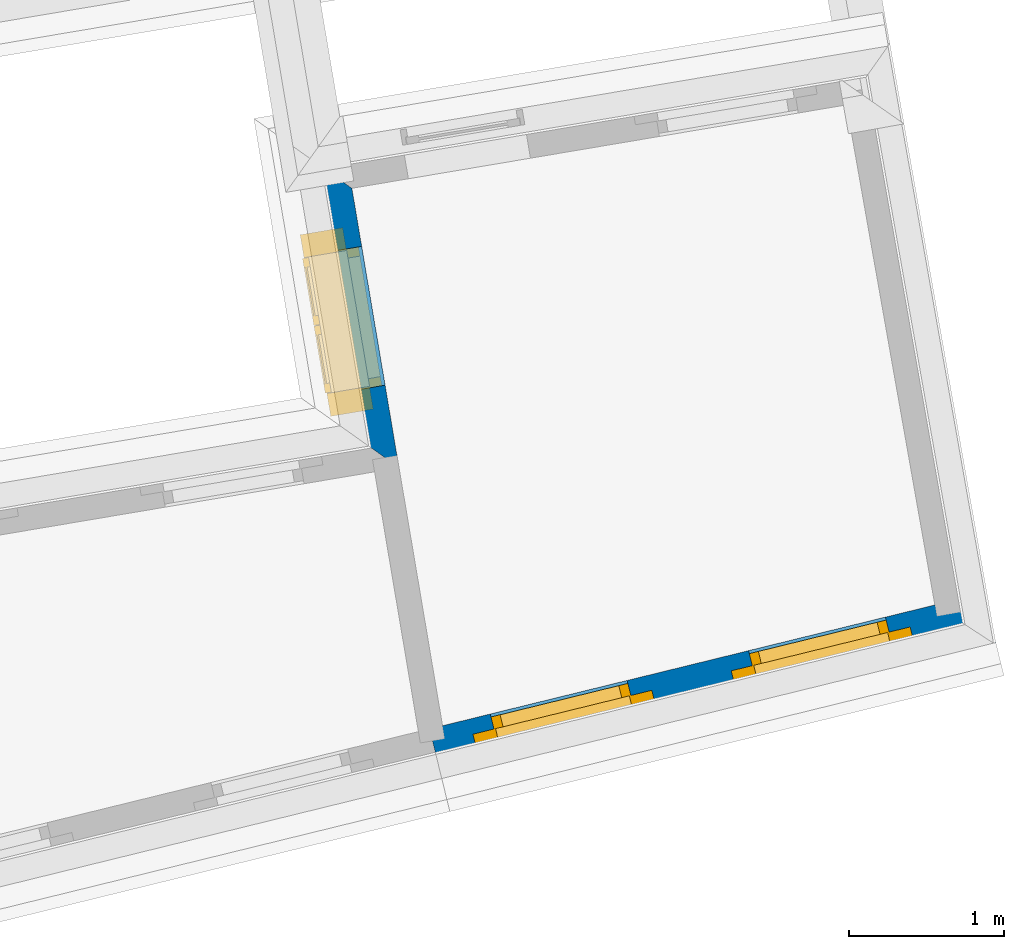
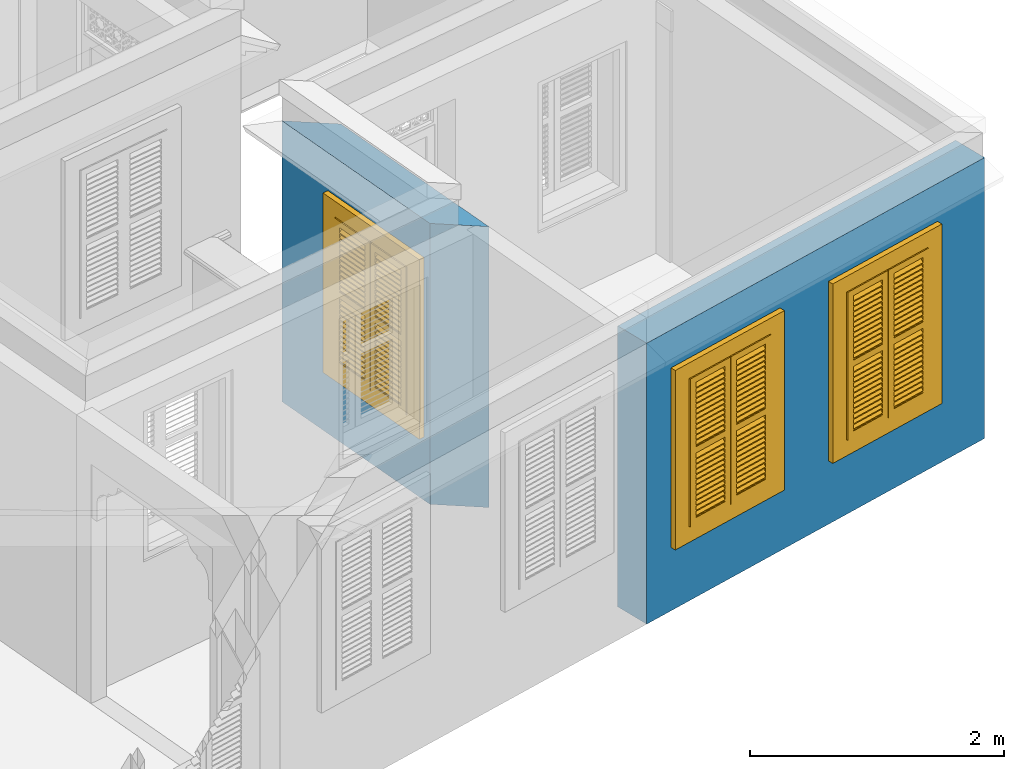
# One storey, part 6 of 12: 3 windows, 2 walls, 3 openings.
"""IFC4 building model written with IfcOpenShell, lengths in metres."""

import ifcopenshell
import ifcopenshell.guid

model = None  # the IFC model being written
_history = None  # IfcOwnerHistory: only IFC2X3 demands one
_inside = {}  # id of a spatial element -> (the spatial element, [elements in it])
_under = {}  # id of a project, library or spatial element -> (it, [spatial elements below it])
_declared = {}  # id of a project -> (the project, [libraries it declares])
_typed = {}  # id of a type object -> (the type object, [elements of that type])
_made_of = {}  # id of a material, layer set ... -> (it, [elements and type objects made of it])


def new_model(schema):
    """Start an empty IFC model of exactly this schema.

    Asked for "IFC4X3", IfcOpenShell would pick the latest addendum, in which some entities
    have other attributes; the version numbers below select the first issue.
    IFC2X3 requires an IfcOwnerHistory on every rooted entity: one is made here for all.
    """
    global model, _history
    if schema == "IFC4X3":
        model = ifcopenshell.file(schema_version=(4, 3, 0, 0))
    else:
        model = ifcopenshell.file(schema=schema)
    _inside.clear()
    _under.clear()
    _declared.clear()
    _typed.clear()
    _made_of.clear()
    _history = None
    if model.schema == "IFC2X3":
        org = make("IfcOrganization", Name="unknown")
        user = make(
            "IfcPersonAndOrganization",
            ThePerson=make("IfcPerson", FamilyName="unknown"),
            TheOrganization=org,
        )
        app = make(
            "IfcApplication",
            ApplicationDeveloper=org,
            Version="unknown",
            ApplicationFullName="unknown",
            ApplicationIdentifier="unknown",
        )
        _history = make(
            "IfcOwnerHistory",
            OwningUser=user,
            OwningApplication=app,
            ChangeAction="ADDED",
            CreationDate=0,
        )
    return model


def make(cls, **values):
    """One entity of the class cls with the attributes given. An attribute that is None is left unset."""
    return model.create_entity(
        cls, **{name: value for name, value in values.items() if value is not None}
    )


def rooted(cls, **values):
    """An entity with a GlobalId (a new one), such as an element, a storey or a relation."""
    return make(cls, GlobalId=ifcopenshell.guid.new(), OwnerHistory=_history, **values)


def si_unit(unit_type, name, prefix=None):
    """IfcSIUnit, for example si_unit("LENGTHUNIT", "METRE", prefix="MILLI")."""
    return make("IfcSIUnit", UnitType=unit_type, Prefix=prefix, Name=name)


def assignment(units):
    """IfcUnitAssignment: the units of a project."""
    return None if units is None else make("IfcUnitAssignment", Units=units)


def point(xyz):
    """IfcCartesianPoint."""
    return None if xyz is None else make("IfcCartesianPoint", Coordinates=xyz)


def direction(xyz):
    """IfcDirection."""
    return None if xyz is None else make("IfcDirection", DirectionRatios=xyz)


def frame(location, z_axis=None, x_axis=None):
    """IfcAxis2Placement3D, a coordinate frame: its origin and axes. An axis left out is left unset."""
    return make(
        "IfcAxis2Placement3D",
        Location=point(location),
        Axis=direction(z_axis),
        RefDirection=direction(x_axis),
    )


def origin():
    """The frame at (0, 0, 0) with its axes left unset."""
    return frame((0.0, 0.0, 0.0))


def origin_with_axes():
    """The frame at (0, 0, 0) with the z axis (0, 0, 1) and the x axis (1, 0, 0) written out."""
    return frame((0.0, 0.0, 0.0), z_axis=(0.0, 0.0, 1.0), x_axis=(1.0, 0.0, 0.0))


def place(relative_to, where):
    """IfcLocalPlacement: puts the frame where relative to a parent placement (None: the world)."""
    return make(
        "IfcLocalPlacement", PlacementRelTo=relative_to, RelativePlacement=where
    )


def context(
    kind, dimensions, precision=None, world=None, true_north=None, identifier=None
):
    """IfcGeometricRepresentationContext, for example the 3D "Model" context."""
    return make(
        "IfcGeometricRepresentationContext",
        ContextIdentifier=identifier,
        ContextType=kind,
        CoordinateSpaceDimension=dimensions,
        Precision=precision,
        WorldCoordinateSystem=world,
        TrueNorth=true_north,
    )


def subcontext(parent, identifier, kind, view, scale=None):
    """IfcGeometricRepresentationSubContext, for example "Body" below "Model"."""
    return make(
        "IfcGeometricRepresentationSubContext",
        ContextIdentifier=identifier,
        ContextType=kind,
        ParentContext=parent,
        TargetScale=scale,
        TargetView=view,
    )


def project(units=None, contexts=None):
    """IfcProject with its units and contexts."""
    return rooted(
        "IfcProject",
        Name="project",
        RepresentationContexts=contexts,
        UnitsInContext=assignment(units),
    )


def spatial(cls, under=None, at=None, **own):
    """A site, building, storey or space (cls), placed at a placement, below another one or the project."""
    s = rooted(cls, ObjectPlacement=at, **own)
    if under is not None:
        _under.setdefault(under.id(), (under, []))[1].append(s)
    return s


def polyline(points):
    """IfcPolyline through the points."""
    return make("IfcPolyline", Points=[point(p) for p in points])


def outline(outer, holes=None, kind="AREA"):
    """IfcArbitraryClosedProfileDef: a profile drawn as a closed curve; with holes, ...WithVoids."""
    if holes is None:
        return make("IfcArbitraryClosedProfileDef", ProfileType=kind, OuterCurve=outer)
    return make(
        "IfcArbitraryProfileDefWithVoids",
        ProfileType=kind,
        OuterCurve=outer,
        InnerCurves=holes,
    )


def extrude(swept, where, along, depth):
    """IfcExtrudedAreaSolid: the profile swept, set in the frame where, extruded along a direction by depth."""
    return make(
        "IfcExtrudedAreaSolid",
        SweptArea=swept,
        Position=where,
        ExtrudedDirection=direction(along),
        Depth=depth,
    )


def faces_of(points, faces, orient=None, outer=None):
    """IfcFace entities. A face is a list of loops; a loop is a list of indices into points, from 0.

    orient and outer hold one flag for each loop. By default every Orientation is true, the
    first loop of a face is its IfcFaceOuterBound and the others are IfcFaceBound.
    """
    made = []
    for i, loops in enumerate(faces):
        bounds = []
        for j, loop in enumerate(loops):
            is_outer = j == 0 if outer is None else outer[i][j]
            bounds.append(
                make(
                    "IfcFaceOuterBound" if is_outer else "IfcFaceBound",
                    Bound=make("IfcPolyLoop", Polygon=[points[k] for k in loop]),
                    Orientation=True if orient is None else orient[i][j],
                )
            )
        made.append(make("IfcFace", Bounds=bounds))
    return made


def faceted_brep(points, faces, orient=None, outer=None, voids=None):
    """IfcFacetedBrep: a solid bounded by flat faces; with voids (closed shells), ...WithVoids."""
    shared = [point(p) for p in points]
    hull = make("IfcClosedShell", CfsFaces=faces_of(shared, faces, orient, outer))
    if voids is None:
        return make("IfcFacetedBrep", Outer=hull)
    return make(
        "IfcFacetedBrepWithVoids",
        Outer=hull,
        Voids=[
            make(cls, CfsFaces=faces_of(shared, fs, o, b)) for cls, fs, o, b in voids
        ],
    )


def shape(context_of_items, identifier, shape_type, items):
    """IfcShapeRepresentation: the items that make up one representation, for example the "Body"."""
    return make(
        "IfcShapeRepresentation",
        ContextOfItems=context_of_items,
        RepresentationIdentifier=identifier,
        RepresentationType=shape_type,
        Items=items,
    )


def source(mapping_origin, context_of_items, identifier, shape_type, items):
    """IfcRepresentationMap: a shape defined once, which mapped items show again and again."""
    return make(
        "IfcRepresentationMap",
        MappingOrigin=mapping_origin,
        MappedRepresentation=shape(context_of_items, identifier, shape_type, items),
    )


def transform(
    local_origin,
    x_axis=None,
    y_axis=None,
    z_axis=None,
    scale=None,
    scale2=None,
    scale3=None,
    uniform=True,
):
    """IfcCartesianTransformationOperator3D, or its non-uniform kind. x_axis, y_axis, z_axis: its Axis1, 2, 3."""
    if uniform:
        return make(
            "IfcCartesianTransformationOperator3D",
            Axis1=direction(x_axis),
            Axis2=direction(y_axis),
            LocalOrigin=point(local_origin),
            Scale=scale,
            Axis3=direction(z_axis),
        )
    return make(
        "IfcCartesianTransformationOperator3DnonUniform",
        Axis1=direction(x_axis),
        Axis2=direction(y_axis),
        LocalOrigin=point(local_origin),
        Scale=scale,
        Axis3=direction(z_axis),
        Scale2=scale2,
        Scale3=scale3,
    )


def mapped(mapping_source, mapping_target):
    """IfcMappedItem: shows the shape of a source again, moved by a transform."""
    return make(
        "IfcMappedItem", MappingSource=mapping_source, MappingTarget=mapping_target
    )


def material(Name=None, Category=None):
    """IfcMaterial."""
    return make("IfcMaterial", Name=Name, Category=Category)


def layer(
    of_material, thickness, ventilated=None, Name=None, Category=None, Priority=None
):
    """IfcMaterialLayer: one layer of a wall or slab, of a material (None: an air gap)."""
    return make(
        "IfcMaterialLayer",
        Material=of_material,
        LayerThickness=thickness,
        IsVentilated=ventilated,
        Name=Name,
        Category=Category,
        Priority=Priority,
    )


def layer_set(layers, Name=None):
    """IfcMaterialLayerSet."""
    return make("IfcMaterialLayerSet", MaterialLayers=layers, LayerSetName=Name)


def layer_usage(for_layer_set, set_direction, sense, offset, extent=None):
    """IfcMaterialLayerSetUsage: how a layer set lies in its element."""
    return make(
        "IfcMaterialLayerSetUsage",
        ForLayerSet=for_layer_set,
        LayerSetDirection=set_direction,
        DirectionSense=sense,
        OffsetFromReferenceLine=offset,
        ReferenceExtent=extent,
    )


def made_of(thing, what):
    """Note that an element or type object is made of a material, layer set ...; save() writes the relation."""
    if what is not None:
        _made_of.setdefault(what.id(), (what, []))[1].append(thing)
    return thing


def type_object(cls, material=None, **own):
    """A type object (cls), such as IfcWallType, which elements share."""
    return made_of(rooted(cls, **own), material)


def type_shapes(of_type, sources):
    """Give a type object the sources (RepresentationMaps) that its elements show as mapped items."""
    of_type.RepresentationMaps = sources


def element(
    cls,
    number,
    at=None,
    inside=None,
    cuts=None,
    type_object=None,
    material=None,
    context=None,
    identifier="Body",
    shape_type=None,
    held_by="IfcProductDefinitionShape",
    body=None,
    shapes=None,
    **own,
):
    """One element of the class cls, such as IfcWall. Its Tag is "e" and its number.

    at: its placement. inside: the storey or other place that contains it. cuts: it is an
    opening in that element (IfcRelVoidsElement). A single representation is given by context,
    identifier, shape_type and body (its items); several are given by shapes. held_by: the class
    of the entity that holds the representations. save() writes the other relations.
    """
    e = rooted(cls, Tag="e%d" % number, ObjectPlacement=at, **own)
    if body is not None:
        shapes = [shape(context, identifier, shape_type, body)]
    if shapes is not None:
        e.Representation = make(held_by, Representations=shapes)
    if inside is not None:
        _inside.setdefault(inside.id(), (inside, []))[1].append(e)
    if cuts is not None:
        rooted(
            "IfcRelVoidsElement", RelatingBuildingElement=cuts, RelatedOpeningElement=e
        )
    if type_object is not None:
        _typed.setdefault(type_object.id(), (type_object, []))[1].append(e)
    return made_of(e, material)


def fill(opening, filler):
    """IfcRelFillsElement: the door or window that sits in an opening."""
    return rooted(
        "IfcRelFillsElement",
        RelatingOpeningElement=opening,
        RelatedBuildingElement=filler,
    )


def aggregate(whole, parts):
    """IfcRelAggregates: a whole, such as a stair, and the parts it consists of."""
    return rooted("IfcRelAggregates", RelatingObject=whole, RelatedObjects=parts)


def save(model, path):
    """Write the relations noted so far, then the file.

    IfcRelAggregates (storeys below a building ...), IfcRelContainedInSpatialStructure (elements
    in a storey), IfcRelDefinesByType, IfcRelAssociatesMaterial and IfcRelDeclares: one each for
    every whole, place, type object, material and project.
    """
    for whole, parts in _under.values():
        aggregate(whole, parts)
    for where, things in _inside.values():
        rooted(
            "IfcRelContainedInSpatialStructure",
            RelatedElements=things,
            RelatingStructure=where,
        )
    for kind, things in _typed.values():
        rooted("IfcRelDefinesByType", RelatedObjects=things, RelatingType=kind)
    for what, things in _made_of.values():
        rooted("IfcRelAssociatesMaterial", RelatedObjects=things, RelatingMaterial=what)
    for by, libraries in _declared.values():
        rooted("IfcRelDeclares", RelatingContext=by, RelatedDefinitions=libraries)
    model.write(path)


model = new_model("IFC4")

# Units and contexts
model_context = context("Model", 3, world=origin_with_axes())
body_context = subcontext(model_context, "Body", "Model", "MODEL_VIEW")
ifc_project = project(units=[si_unit("PLANEANGLEUNIT", "RADIAN"), si_unit("MASSUNIT", "GRAM", prefix="KILO"), si_unit("FORCEUNIT", "NEWTON", prefix="KILO"), si_unit("LENGTHUNIT", "METRE"), si_unit("AREAUNIT", "SQUARE_METRE"), si_unit("VOLUMEUNIT", "CUBIC_METRE")], contexts=[model_context, model_context])

# Site, building, storey
site_placement = place(None, origin_with_axes())
site = spatial("IfcSite", under=ifc_project, at=site_placement, Name="Site plot-6", CompositionType="ELEMENT")
building_placement = place(None, origin_with_axes())
building = spatial("IfcBuilding", under=site, at=building_placement, Name="Building plot-6", CompositionType="ELEMENT")
storey_placement = place(None, frame((0.0, 0.0, 3.6), z_axis=(0.0, 0.0, 1.0), x_axis=(1.0, 0.0, 0.0)))
storey = spatial("IfcBuildingStorey", under=building, at=storey_placement, Name="plot-6 1", CompositionType="ELEMENT", Elevation=3.6)

# Wall, opening, window
ifc_material = material(Name="Masonry")
ifc_layer = layer(ifc_material, 0.33, ventilated=False)
ifc_layer_set = layer_set([ifc_layer], Name="exterior_0.08_0.25")
ifc_layer_usage = layer_usage(ifc_layer_set, "AXIS2", "POSITIVE", -0.25)
wall_type = type_object("IfcWallType", Name="exterior_0.08_0.25", PredefinedType="SOLIDWALL", material=ifc_layer_set)
wall_1_placement = place(storey_placement, frame((-2.74667527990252, 1.74394871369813, 0.0), z_axis=(0.0, 0.0, 1.0), x_axis=(0.16629262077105, -0.986076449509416, 0.0)))
wall_1 = element("IfcWall", 1, at=wall_1_placement, inside=storey, type_object=wall_type, material=ifc_layer_usage, Name="exterior", context=body_context, shape_type="SweptSolid", body=[
    extrude(outline(polyline([(0.0800000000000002, 0.0800000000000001), (-0.25, -0.25), (1.58045229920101, -0.25), (1.91045229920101, 0.0800000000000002), (0.0800000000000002, 0.0800000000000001)])), origin_with_axes(), (0.0, 0.0, 1.0), 2.7),
])
opening_1_placement = place(wall_1_placement, frame((0.460226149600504, 0.0, 0.75)))
opening_1 = element("IfcOpeningElement", 2, at=opening_1_placement, cuts=wall_1, Name="My Opening", ObjectType="Opening", context=body_context, shape_type="SweptSolid", body=[
    extrude(outline(polyline([(0.0, -0.270000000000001), (0.91, -0.270000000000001), (0.91, 1.1), (3.33066907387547e-16, 1.1), (0.0, -0.270000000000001)])), origin_with_axes(), (0.0, 0.0, 1.0), 1.445),
])
window_type = type_object("IfcWindowType", Name="shuttered_shorter", PartitioningType="DOUBLE_PANEL_HORIZONTAL", PredefinedType="NOTDEFINED")
shared_shape = source(origin(), body_context, "Body", "Brep", [
    faceted_brep([(0.393, 0.0, 0.622), (0.074, 0.0, 0.622), (0.074, 0.0, 0.632), (0.393, 0.0, 0.632), (0.074, -0.04, 0.592), (0.393, -0.04, 0.592), (0.393, -0.04, 0.582), (0.074, -0.04, 0.582), (0.517, 0.0, 0.682), (0.836, 0.0, 0.682), (0.836, 0.0, 0.672), (0.517, 0.0, 0.672), (0.517, -0.04, 0.642), (0.836, -0.04, 0.642), (0.836, -0.04, 0.632), (0.517, -0.04, 0.632), (0.517, 0.0, 0.632), (0.836, 0.0, 0.632), (0.836, 0.0, 0.622), (0.517, 0.0, 0.622), (0.517, -0.04, 0.592), (0.836, -0.04, 0.592), (0.836, -0.04, 0.582), (0.517, -0.04, 0.582), (0.517, 0.0, 0.232), (0.836, 0.0, 0.232), (0.836, 0.0, 0.222), (0.517, 0.0, 0.222), (0.517, -0.04, 0.192), (0.836, -0.04, 0.192), (0.836, -0.04, 0.182), (0.517, -0.04, 0.182), (0.517, 0.0, 0.532), (0.836, 0.0, 0.532), (0.836, 0.0, 0.522), (0.517, 0.0, 0.522), (0.517, -0.04, 0.492), (0.836, -0.04, 0.492), (0.836, -0.04, 0.482), (0.517, -0.04, 0.482), (0.517, 0.0, 0.482), (0.836, 0.0, 0.482), (0.836, 0.0, 0.472), (0.517, 0.0, 0.472), (0.517, -0.04, 0.442), (0.836, -0.04, 0.442), (0.836, -0.04, 0.432), (0.517, -0.04, 0.432), (0.517, 0.0, 0.582), (0.836, 0.0, 0.582), (0.836, 0.0, 0.572), (0.517, 0.0, 0.572), (0.517, -0.04, 0.542), (0.836, -0.04, 0.542), (0.836, -0.04, 0.532), (0.517, -0.04, 0.532), (0.517, 0.0, 0.182), (0.836, 0.0, 0.182), (0.836, 0.0, 0.172), (0.517, 0.0, 0.172), (0.517, -0.04, 0.142), (0.836, -0.04, 0.142), (0.836, -0.04, 0.132), (0.517, -0.04, 0.132), (0.517, 0.0, 0.382), (0.836, 0.0, 0.382), (0.836, 0.0, 0.372), (0.517, 0.0, 0.372), (0.517, -0.04, 0.342), (0.836, -0.04, 0.342), (0.836, -0.04, 0.332), (0.517, -0.04, 0.332), (0.517, 0.0, 0.432), (0.836, 0.0, 0.432), (0.836, 0.0, 0.422), (0.517, 0.0, 0.422), (0.517, -0.04, 0.392), (0.836, -0.04, 0.392), (0.836, -0.04, 0.382), (0.517, -0.04, 0.382), (0.517, 0.0, 0.132), (0.836, 0.0, 0.132), (0.836, 0.0, 0.122), (0.517, 0.0, 0.122), (0.517, -0.04, 0.092), (0.836, -0.04, 0.092), (0.836, -0.04, 0.082), (0.517, -0.04, 0.082), (0.517, 0.0, 0.282), (0.836, 0.0, 0.282), (0.836, 0.0, 0.272), (0.517, 0.0, 0.272), (0.517, -0.04, 0.242), (0.836, -0.04, 0.242), (0.836, -0.04, 0.232), (0.517, -0.04, 0.232), (0.517, 0.0, 0.332), (0.836, 0.0, 0.332), (0.836, 0.0, 0.322), (0.517, 0.0, 0.322), (0.517, -0.04, 0.292), (0.836, -0.04, 0.292), (0.836, -0.04, 0.282), (0.517, -0.04, 0.282), (0.517, 0.0, 1.362667), (0.836, 0.0, 1.362667), (0.836, 0.0, 1.352667), (0.517, 0.0, 1.352667), (0.517, -0.04, 1.322667), (0.836, -0.04, 1.322667), (0.836, -0.04, 1.312667), (0.517, -0.04, 1.312667), (0.517, 0.0, 1.312667), (0.836, 0.0, 1.312667), (0.836, 0.0, 1.302667), (0.517, 0.0, 1.302667), (0.517, -0.04, 1.272667), (0.836, -0.04, 1.272667), (0.836, -0.04, 1.262667), (0.517, -0.04, 1.262667), (0.517, 0.0, 0.912667), (0.836, 0.0, 0.912667), (0.836, 0.0, 0.902667), (0.517, 0.0, 0.902667), (0.517, -0.04, 0.872667), (0.836, -0.04, 0.872667), (0.836, -0.04, 0.862667), (0.517, -0.04, 0.862667), (0.517, 0.0, 1.212667), (0.836, 0.0, 1.212667), (0.836, 0.0, 1.202667), (0.517, 0.0, 1.202667), (0.517, -0.04, 1.172667), (0.836, -0.04, 1.172667), (0.836, -0.04, 1.162667), (0.517, -0.04, 1.162667), (0.517, 0.0, 1.162667), (0.836, 0.0, 1.162667), (0.836, 0.0, 1.152667), (0.517, 0.0, 1.152667), (0.517, -0.04, 1.122667), (0.836, -0.04, 1.122667), (0.836, -0.04, 1.112667), (0.517, -0.04, 1.112667), (0.517, 0.0, 1.262667), (0.836, 0.0, 1.262667), (0.836, 0.0, 1.252667), (0.517, 0.0, 1.252667), (0.517, -0.04, 1.222667), (0.836, -0.04, 1.222667), (0.836, -0.04, 1.212667), (0.517, -0.04, 1.212667), (0.517, 0.0, 0.862667), (0.836, 0.0, 0.862667), (0.836, 0.0, 0.852667), (0.517, 0.0, 0.852667), (0.517, -0.04, 0.822667), (0.836, -0.04, 0.822667), (0.836, -0.04, 0.812667), (0.517, -0.04, 0.812667), (0.517, 0.0, 1.062667), (0.836, 0.0, 1.062667), (0.836, 0.0, 1.052667), (0.517, 0.0, 1.052667), (0.517, -0.04, 1.022667), (0.836, -0.04, 1.022667), (0.836, -0.04, 1.012667), (0.517, -0.04, 1.012667), (0.517, 0.0, 1.112667), (0.836, 0.0, 1.112667), (0.836, 0.0, 1.102667), (0.517, 0.0, 1.102667), (0.517, -0.04, 1.072667), (0.836, -0.04, 1.072667), (0.836, -0.04, 1.062667), (0.517, -0.04, 1.062667), (0.517, 0.0, 0.812667), (0.836, 0.0, 0.812667), (0.836, 0.0, 0.802667), (0.517, 0.0, 0.802667), (0.517, -0.04, 0.772667), (0.836, -0.04, 0.772667), (0.836, -0.04, 0.762667), (0.517, -0.04, 0.762667), (0.517, 0.0, 0.962667), (0.836, 0.0, 0.962667), (0.836, 0.0, 0.952667), (0.517, 0.0, 0.952667), (0.517, -0.04, 0.922667), (0.836, -0.04, 0.922667), (0.836, -0.04, 0.912667), (0.517, -0.04, 0.912667), (0.517, 0.0, 1.012667), (0.836, 0.0, 1.012667), (0.836, 0.0, 1.002667), (0.517, 0.0, 1.002667), (0.517, -0.04, 0.972667), (0.836, -0.04, 0.972667), (0.836, -0.04, 0.962667), (0.517, -0.04, 0.962667), (0.074, 0.0, 0.682), (0.393, 0.0, 0.682), (0.393, 0.0, 0.672), (0.074, 0.0, 0.672), (0.074, -0.04, 0.642), (0.393, -0.04, 0.642), (0.393, -0.04, 0.632), (0.074, -0.04, 0.632), (0.074, 0.0, 0.232), (0.393, 0.0, 0.232), (0.393, 0.0, 0.222), (0.074, 0.0, 0.222), (0.074, -0.04, 0.192), (0.393, -0.04, 0.192), (0.393, -0.04, 0.182), (0.074, -0.04, 0.182), (0.074, 0.0, 0.532), (0.393, 0.0, 0.532), (0.393, 0.0, 0.522), (0.074, 0.0, 0.522), (0.074, -0.04, 0.492), (0.393, -0.04, 0.492), (0.393, -0.04, 0.482), (0.074, -0.04, 0.482), (0.074, 0.0, 0.482), (0.393, 0.0, 0.482), (0.393, 0.0, 0.472), (0.074, 0.0, 0.472), (0.074, -0.04, 0.442), (0.393, -0.04, 0.442), (0.393, -0.04, 0.432), (0.074, -0.04, 0.432), (0.074, 0.0, 0.582), (0.393, 0.0, 0.582), (0.393, 0.0, 0.572), (0.074, 0.0, 0.572), (0.074, -0.04, 0.542), (0.393, -0.04, 0.542), (0.393, -0.04, 0.532), (0.074, -0.04, 0.532), (0.074, 0.0, 0.182), (0.393, 0.0, 0.182), (0.393, 0.0, 0.172), (0.074, 0.0, 0.172), (0.074, -0.04, 0.142), (0.393, -0.04, 0.142), (0.393, -0.04, 0.132), (0.074, -0.04, 0.132), (0.074, 0.0, 0.382), (0.393, 0.0, 0.382), (0.393, 0.0, 0.372), (0.074, 0.0, 0.372), (0.074, -0.04, 0.342), (0.393, -0.04, 0.342), (0.393, -0.04, 0.332), (0.074, -0.04, 0.332), (0.074, 0.0, 0.432), (0.393, 0.0, 0.432), (0.393, 0.0, 0.422), (0.074, 0.0, 0.422), (0.074, -0.04, 0.392), (0.393, -0.04, 0.392), (0.393, -0.04, 0.382), (0.074, -0.04, 0.382), (0.074, 0.0, 0.132), (0.393, 0.0, 0.132), (0.393, 0.0, 0.122), (0.074, 0.0, 0.122), (0.074, -0.04, 0.092), (0.393, -0.04, 0.092), (0.393, -0.04, 0.082), (0.074, -0.04, 0.082), (0.074, 0.0, 0.282), (0.393, 0.0, 0.282), (0.393, 0.0, 0.272), (0.074, 0.0, 0.272), (0.074, -0.04, 0.242), (0.393, -0.04, 0.242), (0.393, -0.04, 0.232), (0.074, -0.04, 0.232), (0.074, 0.0, 0.332), (0.393, 0.0, 0.332), (0.393, 0.0, 0.322), (0.074, 0.0, 0.322), (0.074, -0.04, 0.292), (0.393, -0.04, 0.292), (0.393, -0.04, 0.282), (0.074, -0.04, 0.282), (0.074, 0.0, 1.362667), (0.393, 0.0, 1.362667), (0.393, 0.0, 1.352667), (0.074, 0.0, 1.352667), (0.074, -0.04, 1.322667), (0.393, -0.04, 1.322667), (0.393, -0.04, 1.312667), (0.074, -0.04, 1.312667), (0.074, 0.0, 1.312667), (0.393, 0.0, 1.312667), (0.393, 0.0, 1.302667), (0.074, 0.0, 1.302667), (0.074, -0.04, 1.272667), (0.393, -0.04, 1.272667), (0.393, -0.04, 1.262667), (0.074, -0.04, 1.262667), (0.074, 0.0, 0.912667), (0.393, 0.0, 0.912667), (0.393, 0.0, 0.902667), (0.074, 0.0, 0.902667), (0.074, -0.04, 0.872667), (0.393, -0.04, 0.872667), (0.393, -0.04, 0.862667), (0.074, -0.04, 0.862667), (0.074, 0.0, 1.212667), (0.393, 0.0, 1.212667), (0.393, 0.0, 1.202667), (0.074, 0.0, 1.202667), (0.074, -0.04, 1.172667), (0.393, -0.04, 1.172667), (0.393, -0.04, 1.162667), (0.074, -0.04, 1.162667), (0.074, 0.0, 1.162667), (0.393, 0.0, 1.162667), (0.393, 0.0, 1.152667), (0.074, 0.0, 1.152667), (0.074, -0.04, 1.122667), (0.393, -0.04, 1.122667), (0.393, -0.04, 1.112667), (0.074, -0.04, 1.112667), (0.074, 0.0, 1.262667), (0.393, 0.0, 1.262667), (0.393, 0.0, 1.252667), (0.074, 0.0, 1.252667), (0.074, -0.04, 1.222667), (0.393, -0.04, 1.222667), (0.393, -0.04, 1.212667), (0.074, -0.04, 1.212667), (0.074, 0.0, 0.862667), (0.393, 0.0, 0.862667), (0.393, 0.0, 0.852667), (0.074, 0.0, 0.852667), (0.074, -0.04, 0.822667), (0.393, -0.04, 0.822667), (0.393, -0.04, 0.812667), (0.074, -0.04, 0.812667), (0.074, 0.0, 1.062667), (0.393, 0.0, 1.062667), (0.393, 0.0, 1.052667), (0.074, 0.0, 1.052667), (0.074, -0.04, 1.022667), (0.393, -0.04, 1.022667), (0.393, -0.04, 1.012667), (0.074, -0.04, 1.012667), (0.074, 0.0, 1.112667), (0.393, 0.0, 1.112667), (0.393, 0.0, 1.102667), (0.074, 0.0, 1.102667), (0.074, -0.04, 1.072667), (0.393, -0.04, 1.072667), (0.393, -0.04, 1.062667), (0.074, -0.04, 1.062667), (0.074, 0.0, 0.812667), (0.393, 0.0, 0.812667), (0.393, 0.0, 0.802667), (0.074, 0.0, 0.802667), (0.074, -0.04, 0.772667), (0.393, -0.04, 0.772667), (0.393, -0.04, 0.762667), (0.074, -0.04, 0.762667), (0.074, 0.0, 0.962667), (0.393, 0.0, 0.962667), (0.393, 0.0, 0.952667), (0.074, 0.0, 0.952667), (0.074, -0.04, 0.922667), (0.393, -0.04, 0.922667), (0.393, -0.04, 0.912667), (0.074, -0.04, 0.912667), (0.074, 0.0, 1.012667), (0.393, 0.0, 1.012667), (0.393, 0.0, 1.002667), (0.074, 0.0, 1.002667), (0.074, -0.04, 0.972667), (0.393, -0.04, 0.972667), (0.393, -0.04, 0.962667), (0.074, -0.04, 0.962667), (0.517, -0.04, 0.072), (0.457, -0.04, 0.012), (0.896, -0.04, 0.012), (0.836, -0.04, 0.072), (0.457, -0.04, 0.692667), (0.517, -0.04, 0.692667), (0.457, 0.0, 0.012), (0.896, 0.0, 0.012), (0.836, -0.04, 0.692667), (0.896, -0.04, 0.692667), (0.836, 0.0, 0.072), (0.517, 0.0, 0.072), (0.457, 0.0, 0.692667), (0.517, 0.0, 0.692667), (0.517, -0.04, 0.752666), (0.457, -0.04, 0.752666), (0.896, 0.0, 0.692667), (0.836, 0.0, 0.692667), (0.836, -0.04, 0.752666), (0.896, -0.04, 0.752666), (0.457, 0.0, 0.752666), (0.457, -0.04, 1.433333), (0.517, -0.04, 1.373333), (0.896, 0.0, 0.752666), (0.836, -0.04, 1.373333), (0.896, -0.04, 1.433333), (0.457, 0.0, 1.433333), (0.517, 0.0, 0.752666), (0.836, 0.0, 0.752666), (0.517, 0.0, 1.373333), (0.896, 0.0, 1.433333), (0.836, 0.0, 1.373333), (0.074, -0.04, 0.072), (0.014, -0.04, 0.012), (0.453, -0.04, 0.012), (0.393, -0.04, 0.072), (0.014, -0.04, 0.692667), (0.074, -0.04, 0.692667), (0.014, 0.0, 0.012), (0.453, 0.0, 0.012), (0.393, -0.04, 0.692667), (0.453, -0.04, 0.692667), (0.393, 0.0, 0.072), (0.074, 0.0, 0.072), (0.014, 0.0, 0.692667), (0.074, 0.0, 0.692667), (0.074, -0.04, 0.752666), (0.014, -0.04, 0.752666), (0.453, 0.0, 0.692667), (0.393, 0.0, 0.692667), (0.393, -0.04, 0.752666), (0.453, -0.04, 0.752666), (0.014, 0.0, 0.752666), (0.014, -0.04, 1.433333), (0.074, -0.04, 1.373333), (0.453, 0.0, 0.752666), (0.393, -0.04, 1.373333), (0.453, -0.04, 1.433333), (0.014, 0.0, 1.433333), (0.074, 0.0, 0.752666), (0.393, 0.0, 0.752666), (0.074, 0.0, 1.373333), (0.453, 0.0, 1.433333), (0.393, 0.0, 1.373333), (0.0, 0.33, 1.445), (0.91, 0.33, 1.445), (0.85, 0.33, 1.385), (0.06, 0.33, 1.385), (0.91, 0.25, 1.445), (0.0, 0.25, 1.445), (0.91, 0.25, 1.445), (0.85, 0.33, 0.06), (0.91, 0.33, 0.0), (0.85, 0.25, 1.385), (0.06, 0.25, 1.385), (0.0, 0.33, 0.0), (0.06, 0.33, 0.06), (0.0, 0.25, 0.0), (0.91, 0.25, 0.0), (0.85, 0.25, 0.06), (0.06, 0.25, 0.06), (1.05, 0.25, 1.585), (-0.14, 0.25, 1.585), (-0.14, -0.03, 1.585), (1.05, -0.03, 1.585), (0.9, -0.03, 1.435), (0.01, -0.03, 1.435), (0.01, 0.25, 1.435), (0.9, 0.25, 1.435), (0.9, 0.25, 0.01), (0.9, -0.03, 0.01), (1.05, -0.03, -0.14), (1.05, 0.25, -0.14), (0.01, -0.03, 0.01), (0.01, 0.25, 0.01), (-0.14, -0.03, -0.14), (-0.14, 0.25, -0.14)], [[[0, 1, 2, 3]], [[4, 5, 3, 2]], [[5, 6, 0, 3]], [[1, 0, 6, 7]], [[2, 1, 7, 4]], [[5, 4, 7, 6]], [[8, 9, 10, 11]], [[12, 13, 9, 8]], [[13, 14, 10, 9]], [[14, 15, 11, 10]], [[15, 12, 8, 11]], [[13, 12, 15, 14]], [[16, 17, 18, 19]], [[20, 21, 17, 16]], [[21, 22, 18, 17]], [[22, 23, 19, 18]], [[23, 20, 16, 19]], [[21, 20, 23, 22]], [[24, 25, 26, 27]], [[28, 29, 25, 24]], [[29, 30, 26, 25]], [[30, 31, 27, 26]], [[31, 28, 24, 27]], [[29, 28, 31, 30]], [[32, 33, 34, 35]], [[36, 37, 33, 32]], [[37, 38, 34, 33]], [[38, 39, 35, 34]], [[39, 36, 32, 35]], [[37, 36, 39, 38]], [[40, 41, 42, 43]], [[44, 45, 41, 40]], [[45, 46, 42, 41]], [[46, 47, 43, 42]], [[47, 44, 40, 43]], [[45, 44, 47, 46]], [[48, 49, 50, 51]], [[52, 53, 49, 48]], [[53, 54, 50, 49]], [[54, 55, 51, 50]], [[55, 52, 48, 51]], [[53, 52, 55, 54]], [[56, 57, 58, 59]], [[60, 61, 57, 56]], [[61, 62, 58, 57]], [[62, 63, 59, 58]], [[63, 60, 56, 59]], [[61, 60, 63, 62]], [[64, 65, 66, 67]], [[68, 69, 65, 64]], [[69, 70, 66, 65]], [[70, 71, 67, 66]], [[71, 68, 64, 67]], [[69, 68, 71, 70]], [[72, 73, 74, 75]], [[76, 77, 73, 72]], [[77, 78, 74, 73]], [[78, 79, 75, 74]], [[79, 76, 72, 75]], [[77, 76, 79, 78]], [[80, 81, 82, 83]], [[84, 85, 81, 80]], [[85, 86, 82, 81]], [[86, 87, 83, 82]], [[87, 84, 80, 83]], [[85, 84, 87, 86]], [[88, 89, 90, 91]], [[92, 93, 89, 88]], [[93, 94, 90, 89]], [[94, 95, 91, 90]], [[95, 92, 88, 91]], [[93, 92, 95, 94]], [[96, 97, 98, 99]], [[100, 101, 97, 96]], [[101, 102, 98, 97]], [[102, 103, 99, 98]], [[103, 100, 96, 99]], [[101, 100, 103, 102]], [[104, 105, 106, 107]], [[108, 109, 105, 104]], [[109, 110, 106, 105]], [[110, 111, 107, 106]], [[111, 108, 104, 107]], [[109, 108, 111, 110]], [[112, 113, 114, 115]], [[116, 117, 113, 112]], [[117, 118, 114, 113]], [[118, 119, 115, 114]], [[119, 116, 112, 115]], [[117, 116, 119, 118]], [[120, 121, 122, 123]], [[124, 125, 121, 120]], [[125, 126, 122, 121]], [[126, 127, 123, 122]], [[127, 124, 120, 123]], [[125, 124, 127, 126]], [[128, 129, 130, 131]], [[132, 133, 129, 128]], [[133, 134, 130, 129]], [[134, 135, 131, 130]], [[135, 132, 128, 131]], [[133, 132, 135, 134]], [[136, 137, 138, 139]], [[140, 141, 137, 136]], [[141, 142, 138, 137]], [[142, 143, 139, 138]], [[139, 143, 140, 136]], [[141, 140, 143, 142]], [[144, 145, 146, 147]], [[148, 149, 145, 144]], [[149, 150, 146, 145]], [[150, 151, 147, 146]], [[151, 148, 144, 147]], [[149, 148, 151, 150]], [[152, 153, 154, 155]], [[156, 157, 153, 152]], [[157, 158, 154, 153]], [[158, 159, 155, 154]], [[159, 156, 152, 155]], [[157, 156, 159, 158]], [[160, 161, 162, 163]], [[164, 165, 161, 160]], [[165, 166, 162, 161]], [[166, 167, 163, 162]], [[167, 164, 160, 163]], [[165, 164, 167, 166]], [[168, 169, 170, 171]], [[172, 173, 169, 168]], [[173, 174, 170, 169]], [[174, 175, 171, 170]], [[175, 172, 168, 171]], [[173, 172, 175, 174]], [[176, 177, 178, 179]], [[180, 181, 177, 176]], [[181, 182, 178, 177]], [[182, 183, 179, 178]], [[183, 180, 176, 179]], [[181, 180, 183, 182]], [[184, 185, 186, 187]], [[188, 189, 185, 184]], [[189, 190, 186, 185]], [[190, 191, 187, 186]], [[191, 188, 184, 187]], [[189, 188, 191, 190]], [[192, 193, 194, 195]], [[196, 197, 193, 192]], [[197, 198, 194, 193]], [[198, 199, 195, 194]], [[199, 196, 192, 195]], [[197, 196, 199, 198]], [[200, 201, 202, 203]], [[204, 205, 201, 200]], [[205, 206, 202, 201]], [[206, 207, 203, 202]], [[207, 204, 200, 203]], [[205, 204, 207, 206]], [[208, 209, 210, 211]], [[212, 213, 209, 208]], [[213, 214, 210, 209]], [[214, 215, 211, 210]], [[215, 212, 208, 211]], [[213, 212, 215, 214]], [[216, 217, 218, 219]], [[220, 221, 217, 216]], [[221, 222, 218, 217]], [[222, 223, 219, 218]], [[223, 220, 216, 219]], [[221, 220, 223, 222]], [[224, 225, 226, 227]], [[228, 229, 225, 224]], [[229, 230, 226, 225]], [[230, 231, 227, 226]], [[231, 228, 224, 227]], [[229, 228, 231, 230]], [[232, 233, 234, 235]], [[236, 237, 233, 232]], [[237, 238, 234, 233]], [[238, 239, 235, 234]], [[239, 236, 232, 235]], [[237, 236, 239, 238]], [[240, 241, 242, 243]], [[244, 245, 241, 240]], [[245, 246, 242, 241]], [[246, 247, 243, 242]], [[247, 244, 240, 243]], [[245, 244, 247, 246]], [[248, 249, 250, 251]], [[252, 253, 249, 248]], [[253, 254, 250, 249]], [[254, 255, 251, 250]], [[255, 252, 248, 251]], [[253, 252, 255, 254]], [[256, 257, 258, 259]], [[260, 261, 257, 256]], [[261, 262, 258, 257]], [[262, 263, 259, 258]], [[263, 260, 256, 259]], [[261, 260, 263, 262]], [[264, 265, 266, 267]], [[268, 269, 265, 264]], [[269, 270, 266, 265]], [[270, 271, 267, 266]], [[271, 268, 264, 267]], [[269, 268, 271, 270]], [[272, 273, 274, 275]], [[276, 277, 273, 272]], [[277, 278, 274, 273]], [[278, 279, 275, 274]], [[279, 276, 272, 275]], [[277, 276, 279, 278]], [[280, 281, 282, 283]], [[284, 285, 281, 280]], [[285, 286, 282, 281]], [[286, 287, 283, 282]], [[287, 284, 280, 283]], [[285, 284, 287, 286]], [[288, 289, 290, 291]], [[292, 293, 289, 288]], [[293, 294, 290, 289]], [[294, 295, 291, 290]], [[295, 292, 288, 291]], [[293, 292, 295, 294]], [[296, 297, 298, 299]], [[300, 301, 297, 296]], [[301, 302, 298, 297]], [[302, 303, 299, 298]], [[303, 300, 296, 299]], [[301, 300, 303, 302]], [[304, 305, 306, 307]], [[308, 309, 305, 304]], [[309, 310, 306, 305]], [[310, 311, 307, 306]], [[311, 308, 304, 307]], [[309, 308, 311, 310]], [[312, 313, 314, 315]], [[316, 317, 313, 312]], [[317, 318, 314, 313]], [[318, 319, 315, 314]], [[319, 316, 312, 315]], [[317, 316, 319, 318]], [[320, 321, 322, 323]], [[324, 325, 321, 320]], [[325, 326, 322, 321]], [[326, 327, 323, 322]], [[327, 324, 320, 323]], [[325, 324, 327, 326]], [[328, 329, 330, 331]], [[332, 333, 329, 328]], [[333, 334, 330, 329]], [[334, 335, 331, 330]], [[335, 332, 328, 331]], [[333, 332, 335, 334]], [[336, 337, 338, 339]], [[340, 341, 337, 336]], [[341, 342, 338, 337]], [[342, 343, 339, 338]], [[343, 340, 336, 339]], [[341, 340, 343, 342]], [[344, 345, 346, 347]], [[348, 349, 345, 344]], [[349, 350, 346, 345]], [[350, 351, 347, 346]], [[351, 348, 344, 347]], [[349, 348, 351, 350]], [[352, 353, 354, 355]], [[356, 357, 353, 352]], [[357, 358, 354, 353]], [[358, 359, 355, 354]], [[359, 356, 352, 355]], [[357, 356, 359, 358]], [[360, 361, 362, 363]], [[364, 365, 361, 360]], [[365, 366, 362, 361]], [[366, 367, 363, 362]], [[367, 364, 360, 363]], [[365, 364, 367, 366]], [[368, 369, 370, 371]], [[372, 373, 369, 368]], [[373, 374, 370, 369]], [[374, 375, 371, 370]], [[375, 372, 368, 371]], [[373, 372, 375, 374]], [[376, 377, 378, 379]], [[380, 381, 377, 376]], [[381, 382, 378, 377]], [[382, 383, 379, 378]], [[383, 380, 376, 379]], [[381, 380, 383, 382]], [[384, 385, 386, 387]], [[388, 385, 384, 389]], [[390, 391, 386, 385]], [[392, 387, 386, 393]], [[384, 387, 394, 395]], [[390, 385, 388, 396]], [[389, 384, 395, 397]], [[389, 398, 399, 388]], [[390, 395, 394, 391]], [[400, 393, 386, 391]], [[387, 392, 401, 394]], [[402, 392, 393, 403]], [[396, 388, 399, 404]], [[390, 396, 397, 395]], [[392, 389, 397, 401]], [[398, 389, 392, 402]], [[405, 399, 398, 406]], [[394, 401, 400, 391]], [[407, 403, 393, 400]], [[408, 402, 403, 409]], [[404, 399, 405, 410]], [[411, 397, 396, 404]], [[397, 411, 412, 401]], [[398, 402, 412, 411]], [[406, 398, 411, 413]], [[405, 406, 408, 409]], [[401, 412, 407, 400]], [[414, 409, 403, 407]], [[402, 408, 415, 412]], [[405, 409, 414, 410]], [[404, 410, 413, 411]], [[408, 406, 413, 415]], [[412, 415, 414, 407]], [[413, 410, 414, 415]], [[416, 417, 418, 419]], [[420, 417, 416, 421]], [[422, 423, 418, 417]], [[424, 419, 418, 425]], [[416, 419, 426, 427]], [[422, 417, 420, 428]], [[421, 416, 427, 429]], [[421, 430, 431, 420]], [[422, 427, 426, 423]], [[432, 425, 418, 423]], [[419, 424, 433, 426]], [[434, 424, 425, 435]], [[428, 420, 431, 436]], [[422, 428, 429, 427]], [[424, 421, 429, 433]], [[430, 421, 424, 434]], [[437, 431, 430, 438]], [[426, 433, 432, 423]], [[439, 435, 425, 432]], [[440, 434, 435, 441]], [[436, 431, 437, 442]], [[443, 429, 428, 436]], [[429, 443, 444, 433]], [[430, 434, 444, 443]], [[438, 430, 443, 445]], [[437, 438, 440, 441]], [[433, 444, 439, 432]], [[446, 441, 435, 439]], [[434, 440, 447, 444]], [[437, 441, 446, 442]], [[436, 442, 445, 443]], [[440, 438, 445, 447]], [[444, 447, 446, 439]], [[445, 442, 446, 447]], [[448, 449, 450, 451]], [[452, 449, 448]], [[448, 453, 454]], [[448, 454, 452]], [[455, 450, 449, 456]], [[451, 450, 457, 458]], [[459, 448, 451, 460]], [[448, 459, 461, 453]], [[454, 453, 458, 457]], [[462, 452, 454]], [[454, 457, 463]], [[454, 463, 462]], [[456, 449, 452, 462]], [[450, 455, 463, 457]], [[456, 459, 460, 455]], [[460, 451, 458, 464]], [[459, 456, 462, 461]], [[464, 458, 453, 461]], [[461, 462, 463, 464]], [[455, 460, 464, 463]], [[465, 466, 467, 468]], [[469, 470, 471, 472]], [[473, 474, 469, 472]], [[465, 468, 475, 476]], [[470, 477, 478, 471]], [[474, 473, 478, 477]], [[474, 477, 479, 475]], [[470, 467, 479, 477]], [[470, 469, 468, 467]], [[474, 475, 468, 469]], [[471, 478, 480, 466]], [[473, 472, 465, 476]], [[473, 476, 480, 478]], [[466, 465, 472, 471]], [[480, 476, 475, 479]], [[480, 479, 467, 466]]]),
])
type_shapes(window_type, [shared_shape])
window_1_placement = place(storey_placement, frame((-2.93638370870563, 1.24523153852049, 0.75), z_axis=(0.0, 0.0, 1.0), x_axis=(0.151326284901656, -0.897329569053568, 0.0)))
window_1 = element("IfcWindow", 3, at=window_1_placement, inside=storey, type_object=window_type, Name="bedroom sahn window", OverallHeight=1.445, OverallWidth=0.91, context=body_context, shape_type="MappedRepresentation", body=[
    mapped(shared_shape, transform((0.0, 0.0, 0.0), scale=1.0)),
])
fill(opening_1, window_1)

# Wall, openings, windows
wall_2_placement = place(storey_placement, frame((-2.13361527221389, -1.89135412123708, 0.0), z_axis=(0.0, 0.0, 1.0), x_axis=(0.971213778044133, 0.238209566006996, 0.0)))
wall_2 = element("IfcWall", 4, at=wall_2_placement, inside=storey, type_object=wall_type, material=ifc_layer_usage, Name="exterior", context=body_context, shape_type="SweptSolid", body=[
    extrude(outline(polyline([(-6.61556863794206e-17, 0.08), (1.81841538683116e-16, -0.25), (3.68558857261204, -0.25), (3.68558857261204, 0.08), (-6.61556863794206e-17, 0.08)])), origin_with_axes(), (0.0, 0.0, 1.0), 2.7),
])
opening_2_placement = place(wall_2_placement, frame((0.40389714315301, 0.0, 0.75)))
opening_2 = element("IfcOpeningElement", 5, at=opening_2_placement, cuts=wall_2, Name="My Opening", ObjectType="Opening", context=body_context, shape_type="SweptSolid", body=[
    extrude(outline(polyline([(0.0, -0.27), (0.91, -0.27), (0.91, 1.1), (-5.55111512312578e-17, 1.1), (0.0, -0.27)])), origin_with_axes(), (0.0, 0.0, 1.0), 1.445),
])
opening_3_placement = place(wall_2_placement, frame((2.12169142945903, 0.0, 0.75)))
opening_3 = element("IfcOpeningElement", 6, at=opening_3_placement, cuts=wall_2, Name="My Opening", ObjectType="Opening", context=body_context, shape_type="SweptSolid", body=[
    extrude(outline(polyline([(0.0, -0.27), (0.910000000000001, -0.27), (0.910000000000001, 1.1), (0.0, 1.1), (0.0, -0.27)])), origin_with_axes(), (0.0, 0.0, 1.0), 1.445),
])
window_2_placement = place(storey_placement, frame((-1.67702821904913, -2.05736967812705, 0.75), z_axis=(0.0, 0.0, 1.0), x_axis=(0.883804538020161, 0.216770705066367, 0.0)))
window_2 = element("IfcWindow", 7, at=window_2_placement, inside=storey, type_object=window_type, Name="bedroom outside window", OverallHeight=1.445, OverallWidth=0.91, context=body_context, shape_type="MappedRepresentation", body=[
    mapped(shared_shape, transform((0.0, 0.0, 0.0), scale=1.0)),
])
fill(opening_2, window_2)
window_3_placement = place(storey_placement, frame((-0.00868274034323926, -1.6481746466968, 0.75), z_axis=(0.0, 0.0, 1.0), x_axis=(0.883804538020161, 0.216770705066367, 0.0)))
window_3 = element("IfcWindow", 8, at=window_3_placement, inside=storey, type_object=window_type, Name="bedroom outside window", OverallHeight=1.445, OverallWidth=0.91, context=body_context, shape_type="MappedRepresentation", body=[
    mapped(shared_shape, transform((0.0, 0.0, 0.0), scale=1.0)),
])
fill(opening_3, window_3)

save(model, "model.ifc")
